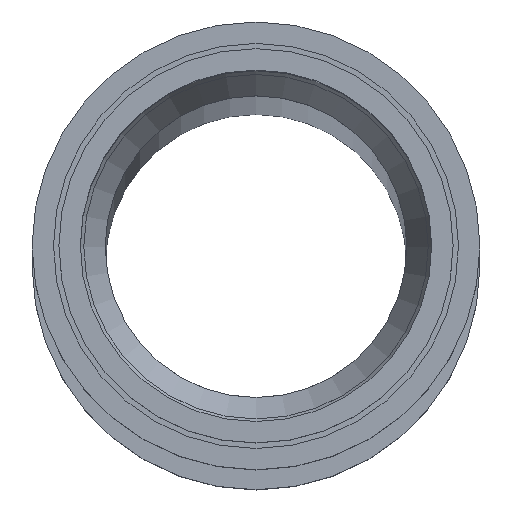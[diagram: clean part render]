
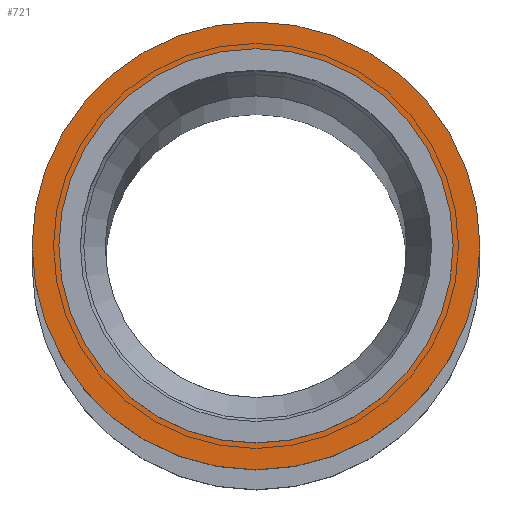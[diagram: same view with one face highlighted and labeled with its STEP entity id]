
A CAD part, top view. The second image highlights one B-rep face of the part: STEP entity #721.
In plain terms, the highlighted planar face has unit normal (0, 0, 1) as drawn and (1, 0, 0) by its records, which use the part's own axes.
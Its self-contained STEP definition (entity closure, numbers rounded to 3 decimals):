
#104=PLANE($,#801);
#131=FACE_BOUND($,#239,.T.);
#132=FACE_BOUND($,#240,.T.);
#239=EDGE_LOOP($,(#605));
#240=EDGE_LOOP($,(#606));
#288=CIRCLE($,#800,20.9);
#289=CIRCLE($,#802,18.4);
#358=VERTEX_POINT($,#1897);
#359=VERTEX_POINT($,#1900);
#444=EDGE_CURVE($,#358,#358,#288,.T.);
#445=EDGE_CURVE($,#359,#359,#289,.T.);
#605=ORIENTED_EDGE($,*,*,#445,.F.);
#606=ORIENTED_EDGE($,*,*,#444,.T.);
#721=ADVANCED_FACE($,(#131,#132),#104,.T.);
#800=AXIS2_PLACEMENT_3D($,#1898,#954,#955);
#801=AXIS2_PLACEMENT_3D($,#1899,#956,#957);
#802=AXIS2_PLACEMENT_3D($,#1901,#958,#959);
#954=DIRECTION('center_axis',(1.,0.,0.));
#955=DIRECTION('ref_axis',(0.,1.,0.));
#956=DIRECTION('center_axis',(1.,0.,0.));
#957=DIRECTION('ref_axis',(0.,0.,-1.));
#958=DIRECTION('center_axis',(1.,0.,0.));
#959=DIRECTION('ref_axis',(0.,1.,0.));
#1897=CARTESIAN_POINT('',(43.,20.9,0.));
#1898=CARTESIAN_POINT('Origin',(43.,0.,0.));
#1899=CARTESIAN_POINT('Origin',(43.,19.65,0.));
#1900=CARTESIAN_POINT('',(43.,18.4,0.));
#1901=CARTESIAN_POINT('Origin',(43.,0.,0.));
